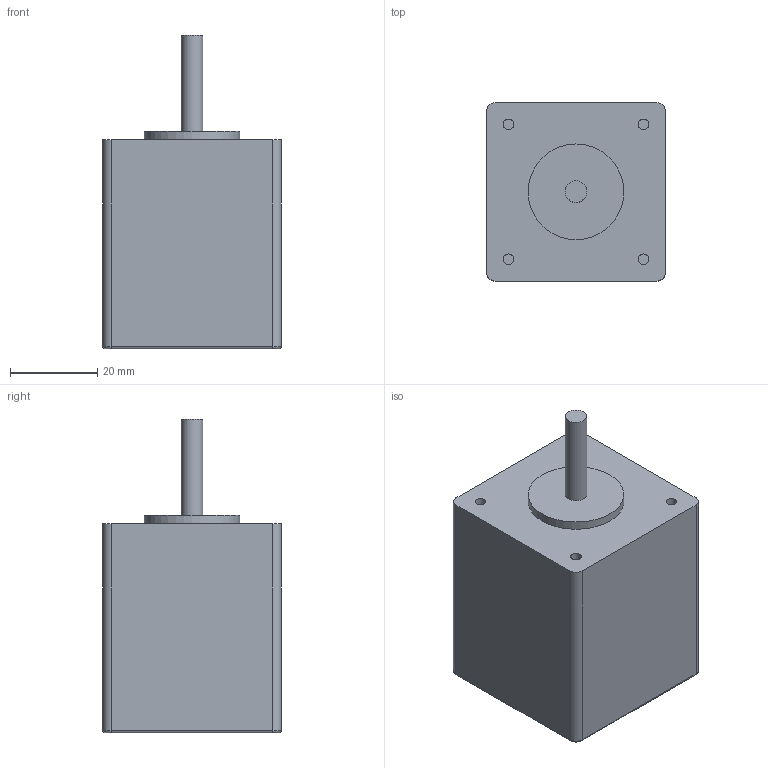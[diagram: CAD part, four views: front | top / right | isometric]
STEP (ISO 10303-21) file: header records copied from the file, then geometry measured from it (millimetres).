
FILE_DESCRIPTION(/* description */ ('Alibre Inc.'),/* implementation_level */ '2;1');
FILE_NAME(/* name */ 'export0',/* time_stamp */ '2013-07-26T09:10:51-06:00',/* author */ (''),/* organization */ (''),/* preprocessor_version */ 'ST-DEVELOPER v14',/* originating_system */ 'Alibre',/* authorisation */ '');
FILE_SCHEMA (('ALIBRE_SCHEMA','CONFIG_CONTROL_DESIGN'));
Length unit declared in the file: centimetre
Products named in the file (1): ID_1
Bounding box: 41 x 41 x 72 mm (x, y, z)
Volume: 81621.4 mm3; surface area: 11650.6 mm2
Topology: 1 solids, 1 shells, 30 faces, 58 edges, 36 vertices
Faces by surface type: cylinder 14, plane 12, torus 4
Full cylindrical faces by diameter (mm): 2.459 x4, 5 x1, 22 x1
Entity records: 1931 total; most frequent: CARTESIAN_POINT 266, DIRECTION 171, CONSTRAINTPAIRUV 129, REFERENCEDEPENDENTUV 106, ORIENTED_EDGE 104, REFERENCEPOINTUV 79, AXIS2_PLACEMENT_3D 70, PERSISTANTTOPOLOGYATTRIBUTE 63
